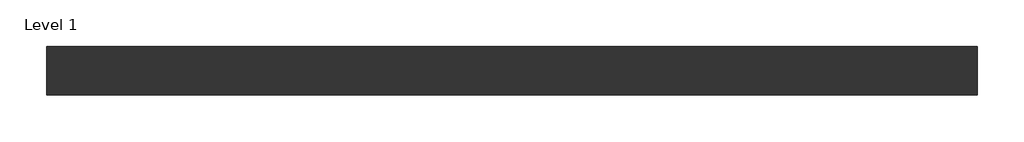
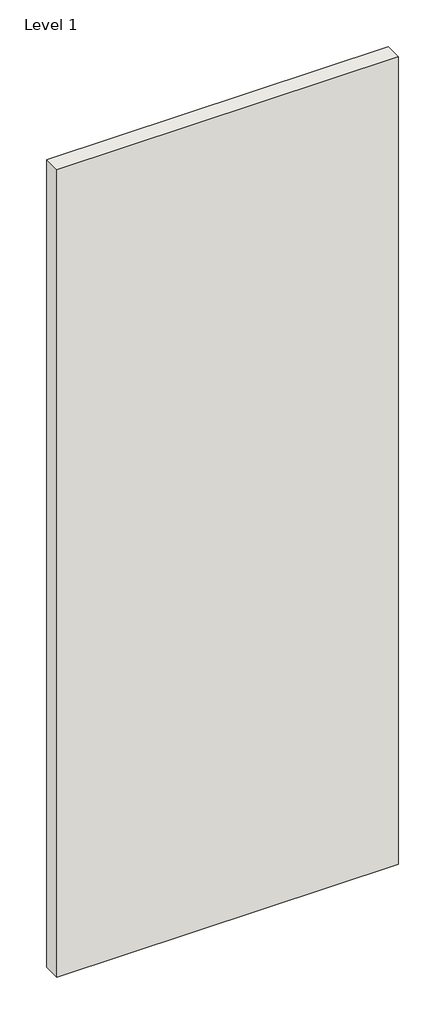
# One storey: 1 wall.
"""IFC4 building model written with IfcOpenShell, lengths in millimetres."""

from ifc_helpers import new_model, si_unit, origin, origin_with_axes, place, context, project, spatial, polyline, outline, extrude, element, save

model = new_model("IFC4")

# Units and contexts
model_context = context("Model", 3, world=origin())
ifc_project = project(units=[si_unit("LENGTHUNIT", "METRE", prefix="MILLI")], contexts=[model_context])

# Site, building, storey
site = spatial("IfcSite", under=ifc_project)
building = spatial("IfcBuilding", under=site)
storey = spatial("IfcBuildingStorey", under=building, Name="Level 1", Elevation=0.0)

# Wall
placement = place(None, origin())
element("IfcWall", 1, ObjectType="RIGIPS - 3.21.30 - EI 60, REI 60 (53)", at=placement, inside=storey, context=model_context, shape_type="SweptSolid", body=[
    extrude(outline(polyline([(1000.0, -26.25), (0.0, -26.25), (0.0, 26.25), (1000.0, 26.25), (1000.0, -26.25)])), origin_with_axes(), (0.0, 0.0, 1.0), 2500.0),
])

save(model, "model.ifc")
